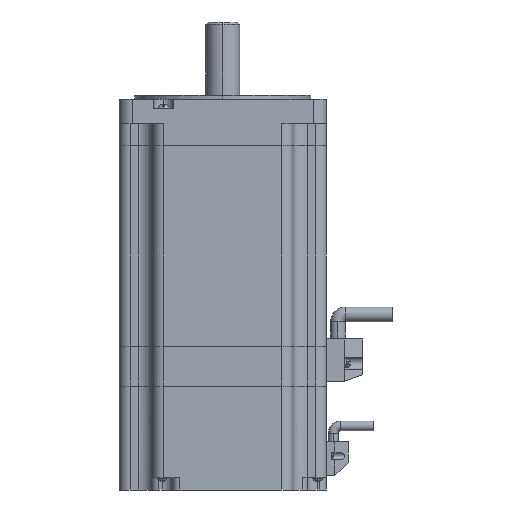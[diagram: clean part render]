
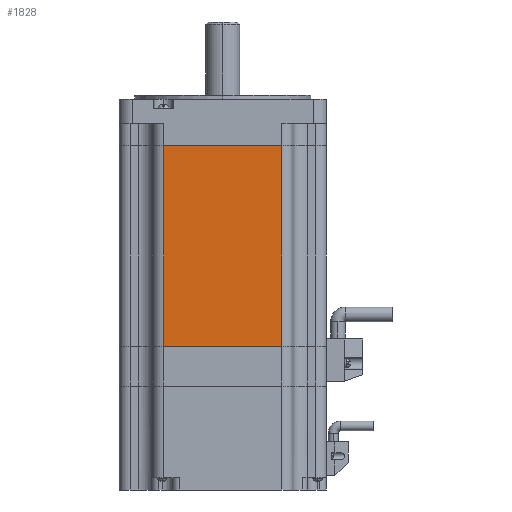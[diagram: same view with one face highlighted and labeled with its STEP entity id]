
A CAD part, left-side view. The second image highlights one B-rep face of the part: STEP entity #1828.
In plain terms, the highlighted planar face has unit normal (-1, 0, 0).
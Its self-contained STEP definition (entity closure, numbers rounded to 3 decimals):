
#1479 = EDGE_CURVE ( 'NONE', #3909, #4329, #13685, .T. ) ;
#1481 = EDGE_CURVE ( 'NONE', #4892, #3909, #13691, .T. ) ;
#1499 = EDGE_CURVE ( 'NONE', #4484, #4329, #13745, .T. ) ;
#1518 = EDGE_CURVE ( 'NONE', #4892, #4484, #13802, .T. ) ;
#1828 = ADVANCED_FACE ( 'NONE', ( #19107 ), #12639, .F. ) ;
#3909 = VERTEX_POINT ( 'NONE', #5525 ) ;
#3973 = ORIENTED_EDGE ( 'NONE', *, *, #1518, .T. ) ;
#4150 = ORIENTED_EDGE ( 'NONE', *, *, #1499, .T. ) ;
#4158 = ORIENTED_EDGE ( 'NONE', *, *, #1479, .F. ) ;
#4329 = VERTEX_POINT ( 'NONE', #5662 ) ;
#4484 = VERTEX_POINT ( 'NONE', #5703 ) ;
#4836 = ORIENTED_EDGE ( 'NONE', *, *, #1481, .F. ) ;
#4892 = VERTEX_POINT ( 'NONE', #5790 ) ;
#5525 = CARTESIAN_POINT ( 'NONE',  ( -43.999, -25.965, 41.5 ) ) ;
#5662 = CARTESIAN_POINT ( 'NONE',  ( -43.999, -25.965, -41.5 ) ) ;
#5703 = CARTESIAN_POINT ( 'NONE',  ( -43.999, 23.035, -41.5 ) ) ;
#5790 = CARTESIAN_POINT ( 'NONE',  ( -43.999, 23.035, 41.5 ) ) ;
#12639 = PLANE ( 'NONE',  #19105 ) ;
#12640 = CARTESIAN_POINT ( 'NONE',  ( -43.999, 41.435, 41.5 ) ) ;
#12641 = DIRECTION ( 'NONE',  ( 1., 0., 0. ) ) ;
#12642 = DIRECTION ( 'NONE',  ( 0., 1., 0. ) ) ;
#13685 = LINE ( 'NONE', #13686, #15429 ) ;
#13686 = CARTESIAN_POINT ( 'NONE',  ( -43.999, -25.965, 41.5 ) ) ;
#13687 = DIRECTION ( 'NONE',  ( 0., 0., -1. ) ) ;
#13691 = LINE ( 'NONE', #13692, #15492 ) ;
#13692 = CARTESIAN_POINT ( 'NONE',  ( -43.999, 41.435, 41.5 ) ) ;
#13693 = DIRECTION ( 'NONE',  ( 0., -1., 0. ) ) ;
#13745 = LINE ( 'NONE', #13746, #15100 ) ;
#13746 = CARTESIAN_POINT ( 'NONE',  ( -43.999, 41.435, -41.5 ) ) ;
#13747 = DIRECTION ( 'NONE',  ( 0., -1., 0. ) ) ;
#13802 = LINE ( 'NONE', #13803, #15252 ) ;
#13803 = CARTESIAN_POINT ( 'NONE',  ( -43.999, 23.035, 41.5 ) ) ;
#13804 = DIRECTION ( 'NONE',  ( 0., 0., -1. ) ) ;
#15100 = VECTOR ( 'NONE', #13747, 1000. ) ;
#15252 = VECTOR ( 'NONE', #13804, 1000. ) ;
#15429 = VECTOR ( 'NONE', #13687, 1000. ) ;
#15492 = VECTOR ( 'NONE', #13693, 1000. ) ;
#18375 = EDGE_LOOP ( 'NONE', ( #4158, #4836, #3973, #4150 ) ) ;
#19105 = AXIS2_PLACEMENT_3D ( 'NONE', #12640, #12641, #12642 ) ;
#19107 = FACE_OUTER_BOUND ( 'NONE', #18375, .T. ) ;
